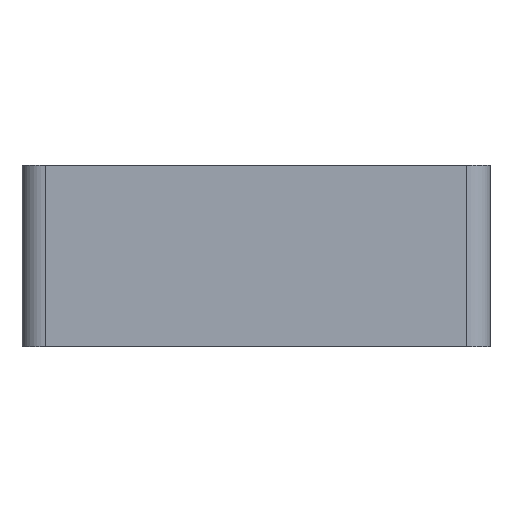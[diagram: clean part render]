
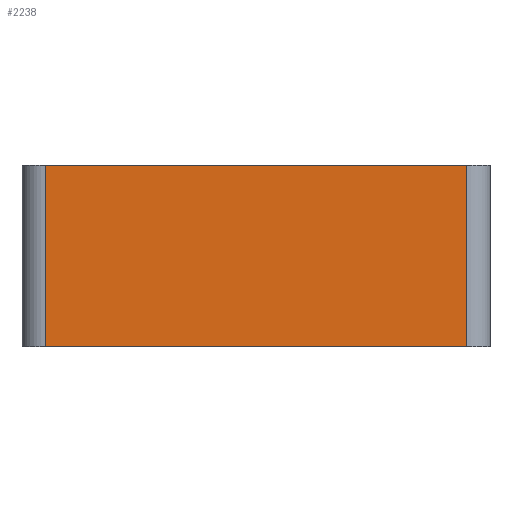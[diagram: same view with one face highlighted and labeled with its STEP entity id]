
A CAD part, front view. The second image highlights one B-rep face of the part: STEP entity #2238.
In plain terms, the highlighted planar face has unit normal (0, -1, 0).
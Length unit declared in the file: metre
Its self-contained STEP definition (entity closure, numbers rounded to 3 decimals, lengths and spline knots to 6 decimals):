
#46=LINE('',#3288,#310);
#108=LINE('',#3414,#372);
#114=LINE('',#3434,#378);
#121=LINE('',#3455,#385);
#310=VECTOR('',#2676,1.);
#372=VECTOR('',#2742,1.);
#378=VECTOR('',#2760,1.);
#385=VECTOR('',#2779,1.);
#548=PLANE('',#2422);
#843=ORIENTED_EDGE('',*,*,#1420,.T.);
#844=ORIENTED_EDGE('',*,*,#1336,.T.);
#845=ORIENTED_EDGE('',*,*,#1409,.T.);
#846=ORIENTED_EDGE('',*,*,#1399,.T.);
#1336=EDGE_CURVE('',#1641,#1640,#46,.F.);
#1399=EDGE_CURVE('',#1703,#1704,#108,.T.);
#1409=EDGE_CURVE('',#1640,#1703,#114,.T.);
#1420=EDGE_CURVE('',#1704,#1641,#121,.T.);
#1640=VERTEX_POINT('',#3287);
#1641=VERTEX_POINT('',#3289);
#1703=VERTEX_POINT('',#3415);
#1704=VERTEX_POINT('',#3416);
#1905=EDGE_LOOP('',(#843,#844,#845,#846));
#2079=FACE_BOUND('',#1905,.T.);
#2238=ADVANCED_FACE('',(#2079),#548,.F.);
#2422=AXIS2_PLACEMENT_3D('',#3456,#2780,#2781);
#2676=DIRECTION('',(-1.,0.,0.));
#2742=DIRECTION('',(-1.,0.,0.));
#2760=DIRECTION('',(0.,0.,1.));
#2779=DIRECTION('',(0.,0.,-1.));
#2780=DIRECTION('',(0.,1.,0.));
#2781=DIRECTION('',(-1.,0.,0.));
#3287=CARTESIAN_POINT('',(0.04572,-0.0762,-0.03937));
#3288=CARTESIAN_POINT('',(0.,-0.0762,-0.03937));
#3289=CARTESIAN_POINT('',(-0.04572,-0.0762,-0.03937));
#3414=CARTESIAN_POINT('',(0.,-0.0762,0.));
#3415=CARTESIAN_POINT('',(0.04572,-0.0762,0.));
#3416=CARTESIAN_POINT('',(-0.04572,-0.0762,0.));
#3434=CARTESIAN_POINT('',(0.04572,-0.0762,0.));
#3455=CARTESIAN_POINT('',(-0.04572,-0.0762,0.));
#3456=CARTESIAN_POINT('',(0.,-0.0762,0.));
